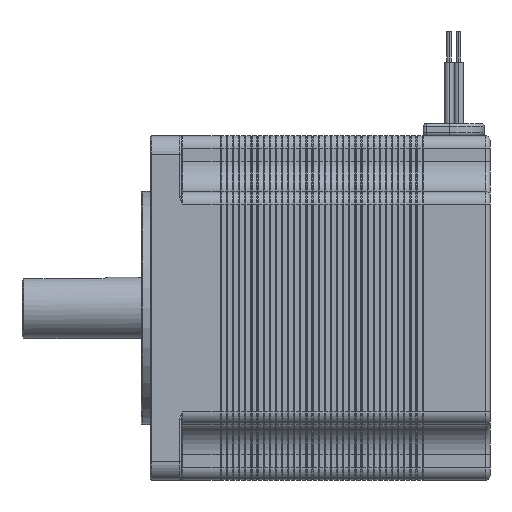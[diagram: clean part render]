
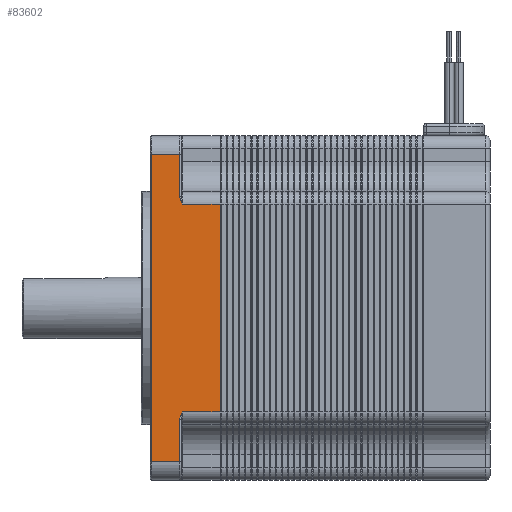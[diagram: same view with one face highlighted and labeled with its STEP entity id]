
A CAD part, left-side view. The second image highlights one B-rep face of the part: STEP entity #83602.
In plain terms, the highlighted planar face has unit normal (-1, 0, 0).
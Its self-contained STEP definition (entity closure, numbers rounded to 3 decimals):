
#567 = B_SPLINE_CURVE_WITH_KNOTS ( 'NONE', 3,
 ( #68387, #13471, #14644, #105218, #41820, #70185 ),
 .UNSPECIFIED., .F., .F.,
 ( 4, 2, 4 ),
 ( 0., 0.001, 0.001 ),
 .UNSPECIFIED. ) ;
#5614 = VECTOR ( 'NONE', #50646, 1000. ) ;
#5848 = EDGE_CURVE ( 'NONE', #111399, #8473, #47722, .T. ) ;
#7977 = LINE ( 'NONE', #17648, #70880 ) ;
#8473 = VERTEX_POINT ( 'NONE', #105673 ) ;
#8556 = VERTEX_POINT ( 'NONE', #28947 ) ;
#9066 = EDGE_CURVE ( 'NONE', #28532, #47783, #7977, .T. ) ;
#11269 = CARTESIAN_POINT ( 'NONE',  ( -28.15, 50.3, -17. ) ) ;
#13471 = CARTESIAN_POINT ( 'NONE',  ( -28.15, 50.395, 17.202 ) ) ;
#13681 = VECTOR ( 'NONE', #15048, 1000. ) ;
#13776 = CARTESIAN_POINT ( 'NONE',  ( -28.15, 55.5, 17. ) ) ;
#13868 = CARTESIAN_POINT ( 'NONE',  ( -28.15, 55.3, -25.15 ) ) ;
#14644 = CARTESIAN_POINT ( 'NONE',  ( -28.15, 50.491, 17.403 ) ) ;
#15048 = DIRECTION ( 'NONE',  ( 0., 0., -1. ) ) ;
#15249 = EDGE_CURVE ( 'NONE', #96266, #66266, #567, .T. ) ;
#17648 = CARTESIAN_POINT ( 'NONE',  ( -28.15, 44.1, -17. ) ) ;
#19646 = ORIENTED_EDGE ( 'NONE', *, *, #68757, .F. ) ;
#19813 = EDGE_CURVE ( 'NONE', #111399, #114401, #89706, .T. ) ;
#20949 = FACE_OUTER_BOUND ( 'NONE', #115522, .T. ) ;
#27616 = EDGE_CURVE ( 'NONE', #114401, #8556, #62661, .T. ) ;
#28532 = VERTEX_POINT ( 'NONE', #64771 ) ;
#28947 = CARTESIAN_POINT ( 'NONE',  ( -28.15, 50.3, -17. ) ) ;
#31179 = CARTESIAN_POINT ( 'NONE',  ( -28.15, 50.491, -17.403 ) ) ;
#33633 = VERTEX_POINT ( 'NONE', #52052 ) ;
#39621 = CARTESIAN_POINT ( 'NONE',  ( -28.15, 55.5, -17. ) ) ;
#40577 = VECTOR ( 'NONE', #44450, 1000. ) ;
#40818 = EDGE_CURVE ( 'NONE', #33633, #49462, #88166, .T. ) ;
#41268 = EDGE_CURVE ( 'NONE', #8556, #28532, #67986, .T. ) ;
#41621 = LINE ( 'NONE', #13868, #13681 ) ;
#41820 = CARTESIAN_POINT ( 'NONE',  ( -28.15, 50.7, 18.04 ) ) ;
#42309 = DIRECTION ( 'NONE',  ( 0., 1., 0. ) ) ;
#44450 = DIRECTION ( 'NONE',  ( 0., 0., 1. ) ) ;
#47722 = LINE ( 'NONE', #113507, #108196 ) ;
#47783 = VERTEX_POINT ( 'NONE', #62484 ) ;
#49462 = VERTEX_POINT ( 'NONE', #51679 ) ;
#50646 = DIRECTION ( 'NONE',  ( 0., -1., 0. ) ) ;
#51163 = CARTESIAN_POINT ( 'NONE',  ( -28.15, 50.7, -17. ) ) ;
#51679 = CARTESIAN_POINT ( 'NONE',  ( -28.15, 55.3, 25.15 ) ) ;
#52052 = CARTESIAN_POINT ( 'NONE',  ( -28.15, 50.7, 25.15 ) ) ;
#54956 = ORIENTED_EDGE ( 'NONE', *, *, #19813, .T. ) ;
#55192 = EDGE_CURVE ( 'NONE', #49462, #8473, #41621, .T. ) ;
#58053 = DIRECTION ( 'NONE',  ( 0., 1., 0. ) ) ;
#62027 = VECTOR ( 'NONE', #77059, 1000. ) ;
#62484 = CARTESIAN_POINT ( 'NONE',  ( -28.15, 44.1, 17. ) ) ;
#62661 = B_SPLINE_CURVE_WITH_KNOTS ( 'NONE', 3,
 ( #93986, #65658, #67413, #31179, #77055, #11269 ),
 .UNSPECIFIED., .F., .F.,
 ( 4, 2, 4 ),
 ( 0., 0.001, 0.001 ),
 .UNSPECIFIED. ) ;
#64771 = CARTESIAN_POINT ( 'NONE',  ( -28.15, 44.1, -17. ) ) ;
#65181 = CARTESIAN_POINT ( 'NONE',  ( -28.15, 50.7, 18.265 ) ) ;
#65658 = CARTESIAN_POINT ( 'NONE',  ( -28.15, 50.7, -18.04 ) ) ;
#65685 = CARTESIAN_POINT ( 'NONE',  ( -28.15, 55.5, -17. ) ) ;
#66266 = VERTEX_POINT ( 'NONE', #65181 ) ;
#67413 = CARTESIAN_POINT ( 'NONE',  ( -28.15, 50.642, -17.823 ) ) ;
#67986 = LINE ( 'NONE', #39621, #62027 ) ;
#68387 = CARTESIAN_POINT ( 'NONE',  ( -28.15, 50.3, 17. ) ) ;
#68638 = ORIENTED_EDGE ( 'NONE', *, *, #55192, .T. ) ;
#68757 = EDGE_CURVE ( 'NONE', #96266, #47783, #96494, .T. ) ;
#69641 = ORIENTED_EDGE ( 'NONE', *, *, #5848, .F. ) ;
#70185 = CARTESIAN_POINT ( 'NONE',  ( -28.15, 50.7, 18.265 ) ) ;
#70880 = VECTOR ( 'NONE', #108830, 1000. ) ;
#75608 = VECTOR ( 'NONE', #94307, 1000. ) ;
#77055 = CARTESIAN_POINT ( 'NONE',  ( -28.15, 50.395, -17.201 ) ) ;
#77059 = DIRECTION ( 'NONE',  ( 0., -1., 0. ) ) ;
#77339 = CARTESIAN_POINT ( 'NONE',  ( -28.15, 50.5, 25.15 ) ) ;
#78399 = ORIENTED_EDGE ( 'NONE', *, *, #9066, .T. ) ;
#83602 = ADVANCED_FACE ( 'NONE', ( #20949 ), #102425, .F. ) ;
#86113 = CARTESIAN_POINT ( 'NONE',  ( -28.15, 50.7, -25.15 ) ) ;
#87573 = LINE ( 'NONE', #113584, #75608 ) ;
#88166 = LINE ( 'NONE', #77339, #102120 ) ;
#89706 = LINE ( 'NONE', #51163, #40577 ) ;
#93760 = ORIENTED_EDGE ( 'NONE', *, *, #99571, .T. ) ;
#93986 = CARTESIAN_POINT ( 'NONE',  ( -28.15, 50.7, -18.265 ) ) ;
#94307 = DIRECTION ( 'NONE',  ( 0., 0., 1. ) ) ;
#96242 = ORIENTED_EDGE ( 'NONE', *, *, #41268, .T. ) ;
#96266 = VERTEX_POINT ( 'NONE', #119234 ) ;
#96494 = LINE ( 'NONE', #13776, #5614 ) ;
#98001 = AXIS2_PLACEMENT_3D ( 'NONE', #65685, #110327, #112118 ) ;
#99571 = EDGE_CURVE ( 'NONE', #66266, #33633, #87573, .T. ) ;
#102120 = VECTOR ( 'NONE', #42309, 1000. ) ;
#102310 = CARTESIAN_POINT ( 'NONE',  ( -28.15, 50.7, -18.265 ) ) ;
#102425 = PLANE ( 'NONE',  #98001 ) ;
#103690 = ORIENTED_EDGE ( 'NONE', *, *, #27616, .T. ) ;
#104613 = ORIENTED_EDGE ( 'NONE', *, *, #40818, .T. ) ;
#105218 = CARTESIAN_POINT ( 'NONE',  ( -28.15, 50.642, 17.823 ) ) ;
#105673 = CARTESIAN_POINT ( 'NONE',  ( -28.15, 55.3, -25.15 ) ) ;
#108196 = VECTOR ( 'NONE', #58053, 1000. ) ;
#108830 = DIRECTION ( 'NONE',  ( 0., 0., 1. ) ) ;
#110327 = DIRECTION ( 'NONE',  ( 1., 0., 0. ) ) ;
#111399 = VERTEX_POINT ( 'NONE', #86113 ) ;
#112118 = DIRECTION ( 'NONE',  ( 0., 0., -1. ) ) ;
#113507 = CARTESIAN_POINT ( 'NONE',  ( -28.15, 50.5, -25.15 ) ) ;
#113584 = CARTESIAN_POINT ( 'NONE',  ( -28.15, 50.7, -17. ) ) ;
#114401 = VERTEX_POINT ( 'NONE', #102310 ) ;
#115066 = ORIENTED_EDGE ( 'NONE', *, *, #15249, .T. ) ;
#115522 = EDGE_LOOP ( 'NONE', ( #104613, #68638, #69641, #54956, #103690, #96242, #78399, #19646, #115066, #93760 ) ) ;
#119234 = CARTESIAN_POINT ( 'NONE',  ( -28.15, 50.3, 17. ) ) ;
